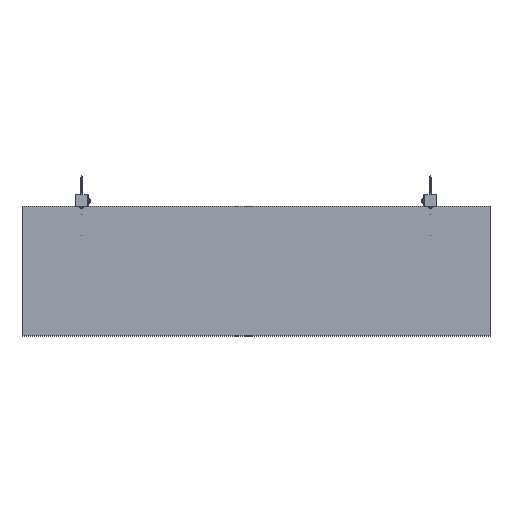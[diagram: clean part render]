
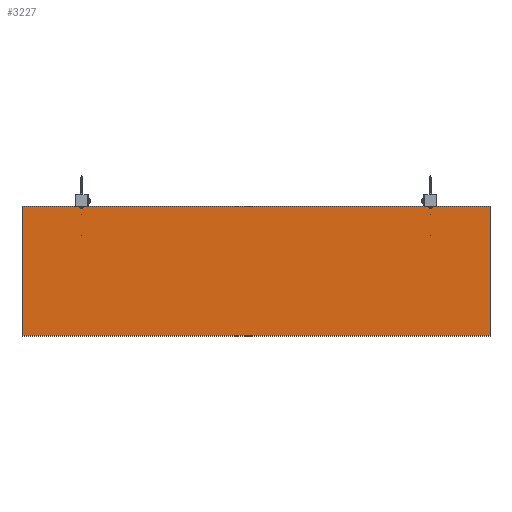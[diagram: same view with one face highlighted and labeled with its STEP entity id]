
A CAD part, top view. The second image highlights one B-rep face of the part: STEP entity #3227.
In plain terms, the highlighted planar face has unit normal (0, 0, 1).
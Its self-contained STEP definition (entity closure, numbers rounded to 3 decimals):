
#3227=ADVANCED_FACE('',(#3987),#14727,.T.);
#3987=FACE_OUTER_BOUND('',#4761,.T.);
#4761=EDGE_LOOP('',(#5646,#5647,#5648,#5649));
#5646=ORIENTED_EDGE('',*,*,#8786,.T.);
#5647=ORIENTED_EDGE('',*,*,#8790,.T.);
#5648=ORIENTED_EDGE('',*,*,#8793,.T.);
#5649=ORIENTED_EDGE('',*,*,#8795,.T.);
#8786=EDGE_CURVE('',#12837,#12836,#11624,.T.);
#8790=EDGE_CURVE('',#12836,#12839,#11628,.T.);
#8793=EDGE_CURVE('',#12839,#12841,#11631,.T.);
#8795=EDGE_CURVE('',#12841,#12837,#11633,.T.);
#11624=B_SPLINE_CURVE_WITH_KNOTS('',1,(#16341,#16342),.UNSPECIFIED.,.F.,
 .F.,(2,2),(0.,240.),.UNSPECIFIED.);
#11628=B_SPLINE_CURVE_WITH_KNOTS('',1,(#16349,#16350),.UNSPECIFIED.,.F.,
 .F.,(2,2),(240.,1090.),.UNSPECIFIED.);
#11631=B_SPLINE_CURVE_WITH_KNOTS('',1,(#16355,#16356),.UNSPECIFIED.,.F.,
 .F.,(2,2),(1090.,1330.),.UNSPECIFIED.);
#11633=B_SPLINE_CURVE_WITH_KNOTS('',1,(#16359,#16360),.UNSPECIFIED.,.F.,
 .F.,(2,2),(1330.,2180.),.UNSPECIFIED.);
#12836=VERTEX_POINT('',#16331);
#12837=VERTEX_POINT('',#16332);
#12839=VERTEX_POINT('',#16334);
#12841=VERTEX_POINT('',#16336);
#14727=PLANE('',#15127);
#15127=AXIS2_PLACEMENT_3D('',#16328,#15511,$);
#15511=DIRECTION('',(0.,0.,1.));
#16328=CARTESIAN_POINT('',(12121.174,4757.138,871.546));
#16331=CARTESIAN_POINT('',(12991.174,4997.138,871.546));
#16332=CARTESIAN_POINT('',(12991.174,4757.138,871.546));
#16334=CARTESIAN_POINT('',(12121.174,4997.138,871.546));
#16336=CARTESIAN_POINT('',(12121.174,4757.138,871.546));
#16341=CARTESIAN_POINT('',(12991.174,4757.138,871.546));
#16342=CARTESIAN_POINT('',(12991.174,4997.138,871.546));
#16349=CARTESIAN_POINT('',(12991.174,4997.138,871.546));
#16350=CARTESIAN_POINT('',(12121.174,4997.138,871.546));
#16355=CARTESIAN_POINT('',(12121.174,4997.138,871.546));
#16356=CARTESIAN_POINT('',(12121.174,4757.138,871.546));
#16359=CARTESIAN_POINT('',(12121.174,4757.138,871.546));
#16360=CARTESIAN_POINT('',(12991.174,4757.138,871.546));
